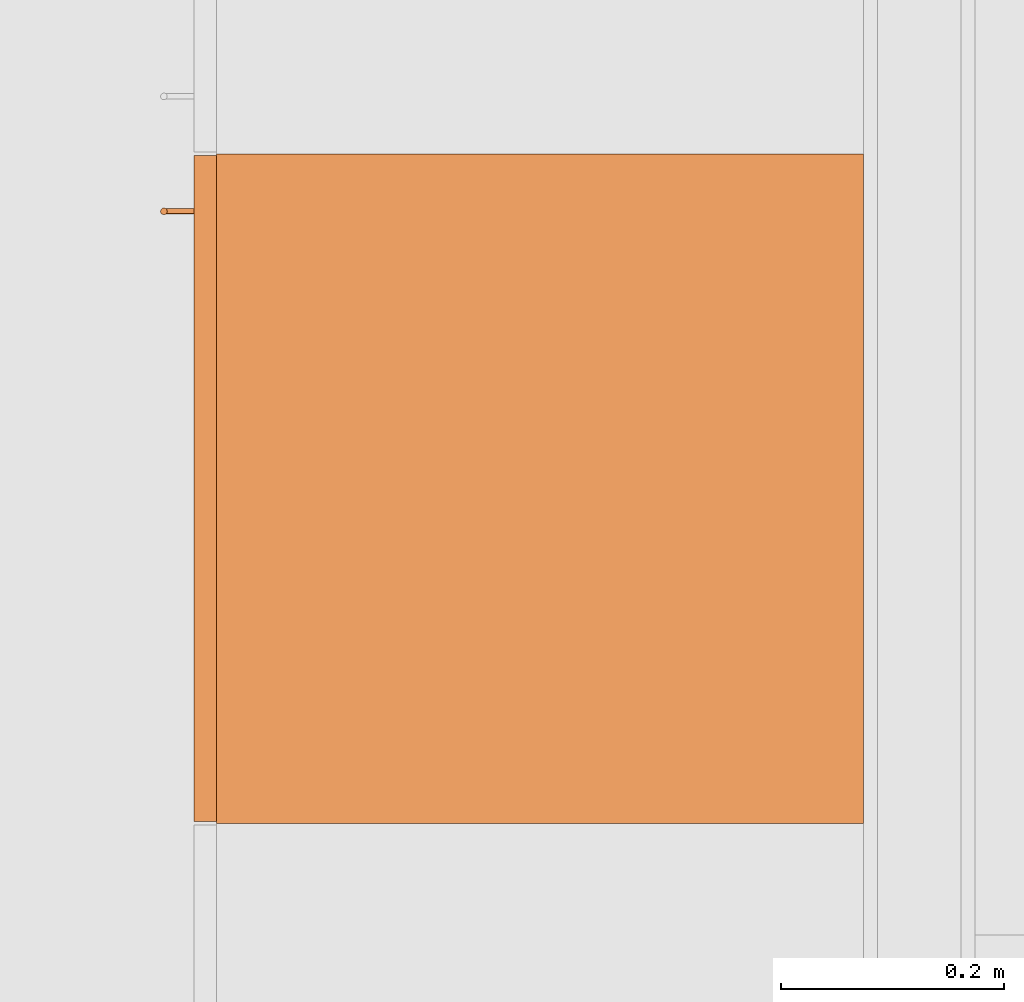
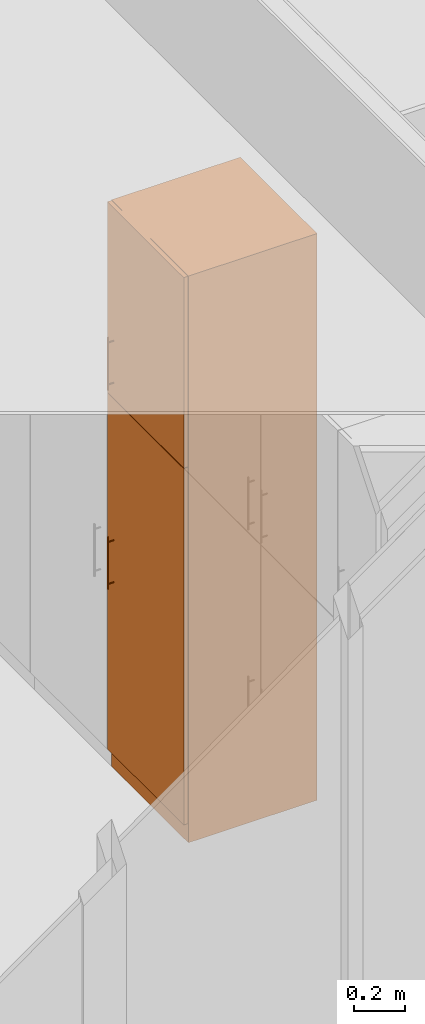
# One storey, part 84 of 167: 1 proxy.
"""IFC2X3 building model written with IfcOpenShell, lengths in millimetres."""

from ifc_helpers import new_model, entity, si_unit, converted_unit, derived_unit, money_unit, direction, frame, origin_with_axes, place, context, subcontext, project, spatial, open_shell, faceted_brep, surface_model, source, transform, mapped, type_object, type_shapes, element, save


model = new_model("IFC2X3")

# Units and contexts
model_context = context("Model", 3, precision=0.01, world=origin_with_axes(), true_north=direction((0.0, 1.0)))
plan_context = context("Plan", 3, precision=0.01, world=origin_with_axes(), true_north=direction((0.0, 1.0)))
body_context = subcontext(model_context, "Body", "Model", "MODEL_VIEW")
ifc_project = project(units=[si_unit("LENGTHUNIT", "METRE", prefix="MILLI"), si_unit("AREAUNIT", "SQUARE_METRE"), si_unit("VOLUMEUNIT", "CUBIC_METRE"), converted_unit("PLANEANGLEUNIT", "DEGREE", entity("IfcPlaneAngleMeasure", 0.0174532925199), si_unit("PLANEANGLEUNIT", "RADIAN"), dimensions=[0, 0, 0, 0, 0, 0, 0]), si_unit("SOLIDANGLEUNIT", "STERADIAN"), money_unit("EUR"), converted_unit("TIMEUNIT", "Year", entity("IfcTimeMeasure", 31556926.0), si_unit("TIMEUNIT", "SECOND"), dimensions=[0, 0, 1, 0, 0, 0, 0]), si_unit("MASSUNIT", "GRAM", prefix="KILO"), si_unit("THERMODYNAMICTEMPERATUREUNIT", "DEGREE_CELSIUS"), si_unit("LUMINOUSINTENSITYUNIT", "LUMEN"), si_unit("ENERGYUNIT", "JOULE", prefix="MEGA"), derived_unit("THERMALCONDUCTANCEUNIT", [(si_unit("POWERUNIT", "WATT"), 1), (si_unit("LENGTHUNIT", "METRE"), -1), (si_unit("THERMODYNAMICTEMPERATUREUNIT", "KELVIN"), -1)]), derived_unit("SPECIFICHEATCAPACITYUNIT", [(si_unit("ENERGYUNIT", "JOULE"), 1), (si_unit("MASSUNIT", "GRAM", prefix="KILO"), -1), (si_unit("THERMODYNAMICTEMPERATUREUNIT", "KELVIN"), -1)]), derived_unit("MASSDENSITYUNIT", [(si_unit("MASSUNIT", "GRAM", prefix="KILO"), 1), (si_unit("VOLUMEUNIT", "CUBIC_METRE"), -1)])], contexts=[model_context, plan_context])

# Site, building, storey
site_placement = place(None, origin_with_axes())
site = spatial("IfcSite", under=ifc_project, at=site_placement, Name="Site", CompositionType="ELEMENT")
building_placement = place(site_placement, origin_with_axes())
building = spatial("IfcBuilding", under=site, at=building_placement, Name="Naam gebouw", CompositionType="ELEMENT")
storey_placement = place(building_placement, origin_with_axes())
storey = spatial("IfcBuildingStorey", under=building, at=storey_placement, Name="Begane grond", CompositionType="ELEMENT", Elevation=0.0)

# Proxy
building_element_proxy_type = type_object("IfcBuildingElementProxyType", Name="Kast hoog 1D 24", PredefinedType="NOTDEFINED")
shared_shape = source(origin_with_axes(), body_context, "Body", "SurfaceModel", [
    faceted_brep([(-20.0, 20.0, 1780.0), (-20.0, 20.0, 1800.0), (-580.0, 20.0, 1800.0), (-580.0, 20.0, 1780.0), (-20.0, 580.0, 1780.0), (-20.0, 580.0, 1800.0), (-580.0, 580.0, 1800.0), (-580.0, 580.0, 1780.0)], [[[0, 1, 2, 3]], [[4, 5, 1, 0]], [[1, 5, 6, 2]], [[3, 2, 6, 7]], [[0, 3, 7, 4]], [[7, 6, 5, 4]]]),
    faceted_brep([(0.0, 20.0, 0.0), (0.0, 20.0, 90.0), (-600.0, 20.0, 90.0), (-600.0, 20.0, 0.0), (0.0, 600.0, 0.0), (0.0, 600.0, 90.0), (-600.0, 600.0, 90.0), (-600.0, 600.0, 0.0)], [[[0, 1, 2, 3]], [[4, 5, 1, 0]], [[1, 5, 6, 2]], [[3, 2, 6, 7]], [[0, 3, 7, 4]], [[7, 6, 5, 4]]]),
    faceted_brep([(0.0, 20.0, 2680.0), (0.0, 20.0, 2700.0), (-20.0, 20.0, 2700.0), (-20.0, 20.0, 2680.0), (0.0, 600.0, 2680.0), (0.0, 600.0, 2700.0), (-20.0, 600.0, 2700.0), (-580.0, 600.0, 2700.0), (-600.0, 600.0, 2700.0), (-600.0, 20.0, 2700.0), (-580.0, 20.0, 2700.0), (-580.0, 20.0, 2680.0), (-600.0, 20.0, 2680.0), (-600.0, 600.0, 2680.0), (-580.0, 600.0, 2680.0), (-20.0, 600.0, 2680.0)], [[[0, 1, 2, 3]], [[4, 5, 1, 0]], [[1, 5, 6, 7, 8, 9, 10, 2]], [[3, 2, 10, 11]], [[0, 3, 11, 12, 13, 14, 15, 4]], [[15, 6, 5, 4]], [[14, 7, 6, 15]], [[13, 8, 7, 14]], [[12, 9, 8, 13]], [[11, 10, 9, 12]]]),
    faceted_brep([(0.0, 20.0, 90.0), (0.0, 20.0, 110.0), (-20.0, 20.0, 110.0), (-20.0, 20.0, 90.0), (0.0, 600.0, 90.0), (0.0, 600.0, 110.0), (-20.0, 600.0, 110.0), (-580.0, 600.0, 110.0), (-600.0, 600.0, 110.0), (-600.0, 20.0, 110.0), (-580.0, 20.0, 110.0), (-580.0, 20.0, 90.0), (-600.0, 20.0, 90.0), (-600.0, 600.0, 90.0), (-580.0, 600.0, 90.0), (-20.0, 600.0, 90.0)], [[[0, 1, 2, 3]], [[4, 5, 1, 0]], [[1, 5, 6, 7, 8, 9, 10, 2]], [[3, 2, 10, 11]], [[0, 3, 11, 12, 13, 14, 15, 4]], [[15, 6, 5, 4]], [[14, 7, 6, 15]], [[13, 8, 7, 14]], [[12, 9, 8, 13]], [[11, 10, 9, 12]]]),
    faceted_brep([(0.0, 20.0, 110.0), (0.0, 20.0, 2680.0), (-20.0, 20.0, 2680.0), (-20.0, 20.0, 110.0), (0.0, 600.0, 110.0), (0.0, 600.0, 2680.0), (-600.0, 600.0, 2680.0), (-600.0, 20.0, 2680.0), (-580.0, 20.0, 2680.0), (-580.0, 580.0, 2680.0), (-20.0, 580.0, 2680.0), (-20.0, 580.0, 110.0), (-580.0, 580.0, 110.0), (-580.0, 20.0, 110.0), (-600.0, 20.0, 110.0), (-600.0, 600.0, 110.0)], [[[0, 1, 2, 3]], [[4, 5, 1, 0]], [[1, 5, 6, 7, 8, 9, 10, 2]], [[3, 2, 10, 11]], [[0, 3, 11, 12, 13, 14, 15, 4]], [[15, 6, 5, 4]], [[14, 7, 6, 15]], [[13, 8, 7, 14]], [[12, 9, 8, 13]], [[11, 10, 9, 12]]]),
    faceted_brep([(-580.0, 20.0, 414.0), (-580.0, 20.0, 434.0), (-580.0, 580.0, 434.0), (-580.0, 580.0, 414.0), (-20.0, 20.0, 414.0), (-20.0, 20.0, 434.0), (-20.0, 580.0, 434.0), (-20.0, 580.0, 414.0)], [[[0, 1, 2, 3]], [[4, 5, 1, 0]], [[1, 5, 6, 2]], [[3, 2, 6, 7]], [[0, 3, 7, 4]], [[7, 6, 5, 4]]]),
    faceted_brep([(-580.0, 20.0, 758.0), (-580.0, 20.0, 778.0), (-580.0, 580.0, 778.0), (-580.0, 580.0, 758.0), (-20.0, 20.0, 758.0), (-20.0, 20.0, 778.0), (-20.0, 580.0, 778.0), (-20.0, 580.0, 758.0)], [[[0, 1, 2, 3]], [[4, 5, 1, 0]], [[1, 5, 6, 2]], [[3, 2, 6, 7]], [[0, 3, 7, 4]], [[7, 6, 5, 4]]]),
    faceted_brep([(-580.0, 20.0, 1102.0), (-580.0, 20.0, 1122.0), (-580.0, 580.0, 1122.0), (-580.0, 580.0, 1102.0), (-20.0, 20.0, 1102.0), (-20.0, 20.0, 1122.0), (-20.0, 580.0, 1122.0), (-20.0, 580.0, 1102.0)], [[[0, 1, 2, 3]], [[4, 5, 1, 0]], [[1, 5, 6, 2]], [[3, 2, 6, 7]], [[0, 3, 7, 4]], [[7, 6, 5, 4]]]),
    faceted_brep([(-580.0, 20.0, 1446.0), (-580.0, 20.0, 1466.0), (-580.0, 580.0, 1466.0), (-580.0, 580.0, 1446.0), (-20.0, 20.0, 1446.0), (-20.0, 20.0, 1466.0), (-20.0, 580.0, 1466.0), (-20.0, 580.0, 1446.0)], [[[0, 1, 2, 3]], [[4, 5, 1, 0]], [[1, 5, 6, 2]], [[3, 2, 6, 7]], [[0, 3, 7, 4]], [[7, 6, 5, 4]]]),
    faceted_brep([(-1.5, 20.0, 91.5), (-1.5, 0.0, 91.5), (-598.5, 0.0, 91.5), (-598.5, 20.0, 91.5), (-1.5, 20.0, 1788.5), (-1.5, 0.0, 1788.5), (-598.5, 0.0, 1788.5), (-598.5, 20.0, 1788.5)], [[[0, 1, 2, 3]], [[4, 5, 1, 0]], [[1, 5, 6, 2]], [[3, 2, 6, 7]], [[0, 3, 7, 4]], [[7, 6, 5, 4]]]),
    faceted_brep([(-551.397777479, -27.7764571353, 891.5), (-551.5, -27.0, 891.5), (-551.397777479, -26.2235428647, 891.5), (-551.098076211, -25.5, 891.5), (-550.621320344, -24.8786796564, 891.5), (-550.0, -24.4019237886, 891.5), (-549.276457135, -24.1022225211, 891.5), (-548.5, -24.0, 891.5), (-547.723542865, -24.1022225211, 891.5), (-547.0, -24.4019237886, 891.5), (-546.378679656, -24.8786796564, 891.5), (-545.901923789, -25.5, 891.5), (-545.602222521, -26.2235428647, 891.5), (-545.5, -27.0, 891.5), (-545.602222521, -27.7764571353, 891.5), (-545.901923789, -28.5, 891.5), (-546.378679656, -29.1213203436, 891.5), (-547.0, -29.5980762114, 891.5), (-547.723542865, -29.8977774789, 891.5), (-548.5, -30.0, 891.5), (-549.276457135, -29.8977774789, 891.5), (-550.0, -29.5980762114, 891.5), (-550.621320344, -29.1213203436, 891.5), (-551.098076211, -28.5, 891.5), (-551.397777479, -27.7764571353, 1141.5), (-551.5, -27.0, 1141.5), (-551.397777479, -26.2235428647, 1141.5), (-551.098076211, -25.5, 1141.5), (-550.621320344, -24.8786796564, 1141.5), (-550.0, -24.4019237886, 1141.5), (-549.276457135, -24.1022225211, 1141.5), (-548.5, -24.0, 1141.5), (-547.723542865, -24.1022225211, 1141.5), (-547.0, -24.4019237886, 1141.5), (-546.378679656, -24.8786796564, 1141.5), (-545.901923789, -25.5, 1141.5), (-545.602222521, -26.2235428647, 1141.5), (-545.5, -27.0, 1141.5), (-545.602222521, -27.7764571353, 1141.5), (-545.901923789, -28.5, 1141.5), (-546.378679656, -29.1213203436, 1141.5), (-547.0, -29.5980762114, 1141.5), (-547.723542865, -29.8977774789, 1141.5), (-548.5, -30.0, 1141.5), (-549.276457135, -29.8977774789, 1141.5), (-550.0, -29.5980762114, 1141.5), (-550.621320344, -29.1213203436, 1141.5), (-551.098076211, -28.5, 1141.5)], [[[0, 1, 2, 3, 4, 5, 6, 7, 8, 9, 10, 11, 12, 13, 14, 15, 16, 17, 18, 19, 20, 21, 22, 23]], [[0, 24, 25, 1]], [[1, 25, 26, 2]], [[2, 26, 27, 3]], [[3, 27, 28, 4]], [[4, 28, 29, 5]], [[5, 29, 30, 6]], [[6, 30, 31, 7]], [[7, 31, 32, 8]], [[8, 32, 33, 9]], [[9, 33, 34, 10]], [[10, 34, 35, 11]], [[11, 35, 36, 12]], [[12, 36, 37, 13]], [[13, 37, 38, 14]], [[14, 38, 39, 15]], [[15, 39, 40, 16]], [[16, 40, 41, 17]], [[17, 41, 42, 18]], [[18, 42, 43, 19]], [[19, 43, 44, 20]], [[20, 44, 45, 21]], [[21, 45, 46, 22]], [[22, 46, 47, 23]], [[23, 47, 24, 0]], [[24, 47, 46, 45, 44, 43, 42, 41, 40, 39, 38, 37, 36, 35, 34, 33, 32, 31, 30, 29, 28, 27, 26, 25]]]),
    surface_model("IfcShellBasedSurfaceModel", [(-549.147047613, -24.070609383, 914.085185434), (-549.147047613, 0.0, 914.085185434), (-548.5, 0.0, 914.0), (-548.5, -24.0, 914.0), (-549.75, -24.2728219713, 914.334936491), (-549.75, 0.0, 914.334936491), (-550.267766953, 0.0, 914.732233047), (-550.665063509, 0.0, 915.25), (-550.914814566, 0.0, 915.852952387), (-551.0, 0.0, 916.5), (-550.914814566, 0.0, 917.147047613), (-550.665063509, 0.0, 917.75), (-550.267766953, 0.0, 918.267766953), (-549.75, 0.0, 918.665063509), (-549.147047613, 0.0, 918.914814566), (-548.5, 0.0, 919.0), (-547.852952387, 0.0, 918.914814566), (-547.25, 0.0, 918.665063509), (-546.732233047, 0.0, 918.267766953), (-546.334936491, 0.0, 917.75), (-546.085185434, 0.0, 917.147047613), (-546.0, 0.0, 916.5), (-546.085185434, 0.0, 915.852952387), (-546.334936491, 0.0, 915.25), (-546.732233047, 0.0, 914.732233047), (-547.25, 0.0, 914.334936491), (-547.852952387, 0.0, 914.085185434), (-547.852952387, -24.070609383, 914.085185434), (-550.267766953, -24.5761600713, 914.732233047), (-550.665063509, -24.9233440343, 915.25), (-550.914814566, -25.2199239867, 915.852952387), (-551.0, -25.3416876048, 916.5), (-550.914814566, -25.2199239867, 917.147047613), (-550.665063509, -24.9233440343, 917.75), (-550.267766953, -24.5761600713, 918.267766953), (-549.75, -24.2728219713, 918.665063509), (-549.147047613, -24.070609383, 918.914814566), (-548.5, -24.0, 919.0), (-547.852952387, -24.070609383, 918.914814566), (-547.25, -24.2728219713, 918.665063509), (-546.732233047, -24.5761600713, 918.267766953), (-546.334936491, -24.9233440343, 917.75), (-546.085185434, -25.2199239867, 917.147047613), (-546.0, -25.3416876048, 916.5), (-546.085185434, -25.2199239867, 915.852952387), (-546.334936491, -24.9233440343, 915.25), (-546.732233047, -24.5761600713, 914.732233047), (-547.25, -24.2728219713, 914.334936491)], [open_shell([[[0, 1, 2, 3]], [[4, 5, 1, 0]], [[1, 5, 6, 7, 8, 9, 10, 11, 12, 13, 14, 15, 16, 17, 18, 19, 20, 21, 22, 23, 24, 25, 26, 2]], [[3, 2, 26, 27]], [[28, 6, 5, 4]], [[29, 7, 6, 28]], [[30, 8, 7, 29]], [[31, 9, 8, 30]], [[32, 10, 9, 31]], [[33, 11, 10, 32]], [[34, 12, 11, 33]], [[35, 13, 12, 34]], [[36, 14, 13, 35]], [[37, 15, 14, 36]], [[38, 16, 15, 37]], [[39, 17, 16, 38]], [[40, 18, 17, 39]], [[41, 19, 18, 40]], [[42, 20, 19, 41]], [[43, 21, 20, 42]], [[44, 22, 21, 43]], [[45, 23, 22, 44]], [[46, 24, 23, 45]], [[47, 25, 24, 46]], [[27, 26, 25, 47]]])]),
    surface_model("IfcShellBasedSurfaceModel", [(-549.147047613, -24.070609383, 1114.08518543), (-549.147047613, 0.0, 1114.08518543), (-548.5, 0.0, 1114.0), (-548.5, -24.0, 1114.0), (-549.75, -24.2728219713, 1114.33493649), (-549.75, 0.0, 1114.33493649), (-550.267766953, 0.0, 1114.73223305), (-550.665063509, 0.0, 1115.25), (-550.914814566, 0.0, 1115.85295239), (-551.0, 0.0, 1116.5), (-550.914814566, 0.0, 1117.14704761), (-550.665063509, 0.0, 1117.75), (-550.267766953, 0.0, 1118.26776695), (-549.75, 0.0, 1118.66506351), (-549.147047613, 0.0, 1118.91481457), (-548.5, 0.0, 1119.0), (-547.852952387, 0.0, 1118.91481457), (-547.25, 0.0, 1118.66506351), (-546.732233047, 0.0, 1118.26776695), (-546.334936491, 0.0, 1117.75), (-546.085185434, 0.0, 1117.14704761), (-546.0, 0.0, 1116.5), (-546.085185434, 0.0, 1115.85295239), (-546.334936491, 0.0, 1115.25), (-546.732233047, 0.0, 1114.73223305), (-547.25, 0.0, 1114.33493649), (-547.852952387, 0.0, 1114.08518543), (-547.852952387, -24.070609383, 1114.08518543), (-550.267766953, -24.5761600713, 1114.73223305), (-550.665063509, -24.9233440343, 1115.25), (-550.914814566, -25.2199239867, 1115.85295239), (-551.0, -25.3416876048, 1116.5), (-550.914814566, -25.2199239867, 1117.14704761), (-550.665063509, -24.9233440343, 1117.75), (-550.267766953, -24.5761600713, 1118.26776695), (-549.75, -24.2728219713, 1118.66506351), (-549.147047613, -24.070609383, 1118.91481457), (-548.5, -24.0, 1119.0), (-547.852952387, -24.070609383, 1118.91481457), (-547.25, -24.2728219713, 1118.66506351), (-546.732233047, -24.5761600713, 1118.26776695), (-546.334936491, -24.9233440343, 1117.75), (-546.085185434, -25.2199239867, 1117.14704761), (-546.0, -25.3416876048, 1116.5), (-546.085185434, -25.2199239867, 1115.85295239), (-546.334936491, -24.9233440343, 1115.25), (-546.732233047, -24.5761600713, 1114.73223305), (-547.25, -24.2728219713, 1114.33493649)], [open_shell([[[0, 1, 2, 3]], [[4, 5, 1, 0]], [[1, 5, 6, 7, 8, 9, 10, 11, 12, 13, 14, 15, 16, 17, 18, 19, 20, 21, 22, 23, 24, 25, 26, 2]], [[3, 2, 26, 27]], [[28, 6, 5, 4]], [[29, 7, 6, 28]], [[30, 8, 7, 29]], [[31, 9, 8, 30]], [[32, 10, 9, 31]], [[33, 11, 10, 32]], [[34, 12, 11, 33]], [[35, 13, 12, 34]], [[36, 14, 13, 35]], [[37, 15, 14, 36]], [[38, 16, 15, 37]], [[39, 17, 16, 38]], [[40, 18, 17, 39]], [[41, 19, 18, 40]], [[42, 20, 19, 41]], [[43, 21, 20, 42]], [[44, 22, 21, 43]], [[45, 23, 22, 44]], [[46, 24, 23, 45]], [[47, 25, 24, 46]], [[27, 26, 25, 47]]])]),
    faceted_brep([(-1.5, 20.0, 1791.5), (-1.5, 0.0, 1791.5), (-598.5, 0.0, 1791.5), (-598.5, 20.0, 1791.5), (-1.5, 20.0, 2698.5), (-1.5, 0.0, 2698.5), (-598.5, 0.0, 2698.5), (-598.5, 20.0, 2698.5)], [[[0, 1, 2, 3]], [[4, 5, 1, 0]], [[1, 5, 6, 2]], [[3, 2, 6, 7]], [[0, 3, 7, 4]], [[7, 6, 5, 4]]]),
    faceted_brep([(-551.397777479, -27.7764571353, 1841.5), (-551.5, -27.0, 1841.5), (-551.397777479, -26.2235428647, 1841.5), (-551.098076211, -25.5, 1841.5), (-550.621320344, -24.8786796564, 1841.5), (-550.0, -24.4019237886, 1841.5), (-549.276457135, -24.1022225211, 1841.5), (-548.5, -24.0, 1841.5), (-547.723542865, -24.1022225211, 1841.5), (-547.0, -24.4019237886, 1841.5), (-546.378679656, -24.8786796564, 1841.5), (-545.901923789, -25.5, 1841.5), (-545.602222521, -26.2235428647, 1841.5), (-545.5, -27.0, 1841.5), (-545.602222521, -27.7764571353, 1841.5), (-545.901923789, -28.5, 1841.5), (-546.378679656, -29.1213203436, 1841.5), (-547.0, -29.5980762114, 1841.5), (-547.723542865, -29.8977774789, 1841.5), (-548.5, -30.0, 1841.5), (-549.276457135, -29.8977774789, 1841.5), (-550.0, -29.5980762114, 1841.5), (-550.621320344, -29.1213203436, 1841.5), (-551.098076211, -28.5, 1841.5), (-551.397777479, -27.7764571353, 2091.5), (-551.5, -27.0, 2091.5), (-551.397777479, -26.2235428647, 2091.5), (-551.098076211, -25.5, 2091.5), (-550.621320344, -24.8786796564, 2091.5), (-550.0, -24.4019237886, 2091.5), (-549.276457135, -24.1022225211, 2091.5), (-548.5, -24.0, 2091.5), (-547.723542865, -24.1022225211, 2091.5), (-547.0, -24.4019237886, 2091.5), (-546.378679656, -24.8786796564, 2091.5), (-545.901923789, -25.5, 2091.5), (-545.602222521, -26.2235428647, 2091.5), (-545.5, -27.0, 2091.5), (-545.602222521, -27.7764571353, 2091.5), (-545.901923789, -28.5, 2091.5), (-546.378679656, -29.1213203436, 2091.5), (-547.0, -29.5980762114, 2091.5), (-547.723542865, -29.8977774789, 2091.5), (-548.5, -30.0, 2091.5), (-549.276457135, -29.8977774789, 2091.5), (-550.0, -29.5980762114, 2091.5), (-550.621320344, -29.1213203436, 2091.5), (-551.098076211, -28.5, 2091.5)], [[[0, 1, 2, 3, 4, 5, 6, 7, 8, 9, 10, 11, 12, 13, 14, 15, 16, 17, 18, 19, 20, 21, 22, 23]], [[0, 24, 25, 1]], [[1, 25, 26, 2]], [[2, 26, 27, 3]], [[3, 27, 28, 4]], [[4, 28, 29, 5]], [[5, 29, 30, 6]], [[6, 30, 31, 7]], [[7, 31, 32, 8]], [[8, 32, 33, 9]], [[9, 33, 34, 10]], [[10, 34, 35, 11]], [[11, 35, 36, 12]], [[12, 36, 37, 13]], [[13, 37, 38, 14]], [[14, 38, 39, 15]], [[15, 39, 40, 16]], [[16, 40, 41, 17]], [[17, 41, 42, 18]], [[18, 42, 43, 19]], [[19, 43, 44, 20]], [[20, 44, 45, 21]], [[21, 45, 46, 22]], [[22, 46, 47, 23]], [[23, 47, 24, 0]], [[24, 47, 46, 45, 44, 43, 42, 41, 40, 39, 38, 37, 36, 35, 34, 33, 32, 31, 30, 29, 28, 27, 26, 25]]]),
    surface_model("IfcShellBasedSurfaceModel", [(-549.147047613, -24.070609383, 1864.08518543), (-549.147047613, 0.0, 1864.08518543), (-548.5, 0.0, 1864.0), (-548.5, -24.0, 1864.0), (-549.75, -24.2728219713, 1864.33493649), (-549.75, 0.0, 1864.33493649), (-550.267766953, 0.0, 1864.73223305), (-550.665063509, 0.0, 1865.25), (-550.914814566, 0.0, 1865.85295239), (-551.0, 0.0, 1866.5), (-550.914814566, 0.0, 1867.14704761), (-550.665063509, 0.0, 1867.75), (-550.267766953, 0.0, 1868.26776695), (-549.75, 0.0, 1868.66506351), (-549.147047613, 0.0, 1868.91481457), (-548.5, 0.0, 1869.0), (-547.852952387, 0.0, 1868.91481457), (-547.25, 0.0, 1868.66506351), (-546.732233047, 0.0, 1868.26776695), (-546.334936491, 0.0, 1867.75), (-546.085185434, 0.0, 1867.14704761), (-546.0, 0.0, 1866.5), (-546.085185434, 0.0, 1865.85295239), (-546.334936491, 0.0, 1865.25), (-546.732233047, 0.0, 1864.73223305), (-547.25, 0.0, 1864.33493649), (-547.852952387, 0.0, 1864.08518543), (-547.852952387, -24.070609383, 1864.08518543), (-550.267766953, -24.5761600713, 1864.73223305), (-550.665063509, -24.9233440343, 1865.25), (-550.914814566, -25.2199239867, 1865.85295239), (-551.0, -25.3416876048, 1866.5), (-550.914814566, -25.2199239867, 1867.14704761), (-550.665063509, -24.9233440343, 1867.75), (-550.267766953, -24.5761600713, 1868.26776695), (-549.75, -24.2728219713, 1868.66506351), (-549.147047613, -24.070609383, 1868.91481457), (-548.5, -24.0, 1869.0), (-547.852952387, -24.070609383, 1868.91481457), (-547.25, -24.2728219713, 1868.66506351), (-546.732233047, -24.5761600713, 1868.26776695), (-546.334936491, -24.9233440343, 1867.75), (-546.085185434, -25.2199239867, 1867.14704761), (-546.0, -25.3416876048, 1866.5), (-546.085185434, -25.2199239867, 1865.85295239), (-546.334936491, -24.9233440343, 1865.25), (-546.732233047, -24.5761600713, 1864.73223305), (-547.25, -24.2728219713, 1864.33493649)], [open_shell([[[0, 1, 2, 3]], [[4, 5, 1, 0]], [[1, 5, 6, 7, 8, 9, 10, 11, 12, 13, 14, 15, 16, 17, 18, 19, 20, 21, 22, 23, 24, 25, 26, 2]], [[3, 2, 26, 27]], [[28, 6, 5, 4]], [[29, 7, 6, 28]], [[30, 8, 7, 29]], [[31, 9, 8, 30]], [[32, 10, 9, 31]], [[33, 11, 10, 32]], [[34, 12, 11, 33]], [[35, 13, 12, 34]], [[36, 14, 13, 35]], [[37, 15, 14, 36]], [[38, 16, 15, 37]], [[39, 17, 16, 38]], [[40, 18, 17, 39]], [[41, 19, 18, 40]], [[42, 20, 19, 41]], [[43, 21, 20, 42]], [[44, 22, 21, 43]], [[45, 23, 22, 44]], [[46, 24, 23, 45]], [[47, 25, 24, 46]], [[27, 26, 25, 47]]])]),
    surface_model("IfcShellBasedSurfaceModel", [(-549.147047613, -24.070609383, 2064.08518543), (-549.147047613, 0.0, 2064.08518543), (-548.5, 0.0, 2064.0), (-548.5, -24.0, 2064.0), (-549.75, -24.2728219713, 2064.33493649), (-549.75, 0.0, 2064.33493649), (-550.267766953, 0.0, 2064.73223305), (-550.665063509, 0.0, 2065.25), (-550.914814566, 0.0, 2065.85295239), (-551.0, 0.0, 2066.5), (-550.914814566, 0.0, 2067.14704761), (-550.665063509, 0.0, 2067.75), (-550.267766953, 0.0, 2068.26776695), (-549.75, 0.0, 2068.66506351), (-549.147047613, 0.0, 2068.91481457), (-548.5, 0.0, 2069.0), (-547.852952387, 0.0, 2068.91481457), (-547.25, 0.0, 2068.66506351), (-546.732233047, 0.0, 2068.26776695), (-546.334936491, 0.0, 2067.75), (-546.085185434, 0.0, 2067.14704761), (-546.0, 0.0, 2066.5), (-546.085185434, 0.0, 2065.85295239), (-546.334936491, 0.0, 2065.25), (-546.732233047, 0.0, 2064.73223305), (-547.25, 0.0, 2064.33493649), (-547.852952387, 0.0, 2064.08518543), (-547.852952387, -24.070609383, 2064.08518543), (-550.267766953, -24.5761600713, 2064.73223305), (-550.665063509, -24.9233440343, 2065.25), (-550.914814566, -25.2199239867, 2065.85295239), (-551.0, -25.3416876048, 2066.5), (-550.914814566, -25.2199239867, 2067.14704761), (-550.665063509, -24.9233440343, 2067.75), (-550.267766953, -24.5761600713, 2068.26776695), (-549.75, -24.2728219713, 2068.66506351), (-549.147047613, -24.070609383, 2068.91481457), (-548.5, -24.0, 2069.0), (-547.852952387, -24.070609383, 2068.91481457), (-547.25, -24.2728219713, 2068.66506351), (-546.732233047, -24.5761600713, 2068.26776695), (-546.334936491, -24.9233440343, 2067.75), (-546.085185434, -25.2199239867, 2067.14704761), (-546.0, -25.3416876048, 2066.5), (-546.085185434, -25.2199239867, 2065.85295239), (-546.334936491, -24.9233440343, 2065.25), (-546.732233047, -24.5761600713, 2064.73223305), (-547.25, -24.2728219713, 2064.33493649)], [open_shell([[[0, 1, 2, 3]], [[4, 5, 1, 0]], [[1, 5, 6, 7, 8, 9, 10, 11, 12, 13, 14, 15, 16, 17, 18, 19, 20, 21, 22, 23, 24, 25, 26, 2]], [[3, 2, 26, 27]], [[28, 6, 5, 4]], [[29, 7, 6, 28]], [[30, 8, 7, 29]], [[31, 9, 8, 30]], [[32, 10, 9, 31]], [[33, 11, 10, 32]], [[34, 12, 11, 33]], [[35, 13, 12, 34]], [[36, 14, 13, 35]], [[37, 15, 14, 36]], [[38, 16, 15, 37]], [[39, 17, 16, 38]], [[40, 18, 17, 39]], [[41, 19, 18, 40]], [[42, 20, 19, 41]], [[43, 21, 20, 42]], [[44, 22, 21, 43]], [[45, 23, 22, 44]], [[46, 24, 23, 45]], [[47, 25, 24, 46]], [[27, 26, 25, 47]]])]),
])
type_shapes(building_element_proxy_type, [shared_shape])
proxy_placement = place(storey_placement, frame((13750.0, 5273.34783859, 0.0), z_axis=(0.0, 0.0, 1.0), x_axis=(0.0, -1.0, 0.0)))
element("IfcBuildingElementProxy", 1, at=proxy_placement, inside=storey, type_object=building_element_proxy_type, Name="__Object-x", context=body_context, shape_type="MappedRepresentation", body=[
    mapped(shared_shape, transform((0.0, 0.0, 0.0))),
])

save(model, "model.ifc")
